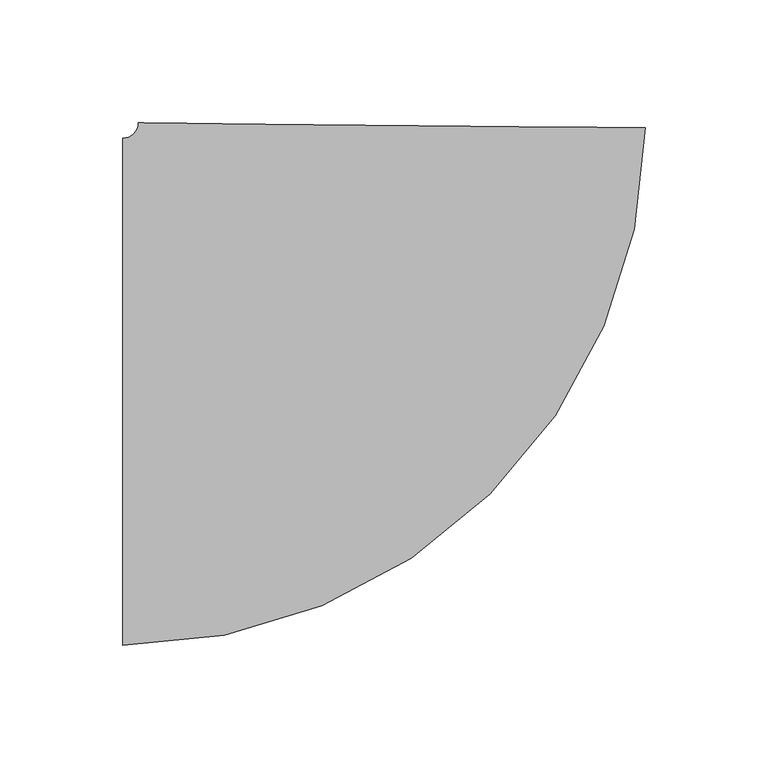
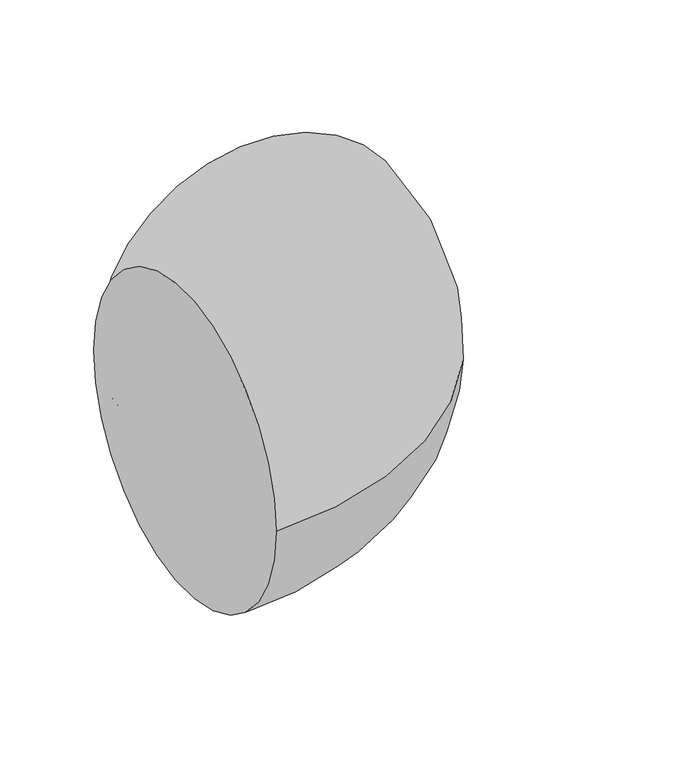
"""IFC4 building model written with IfcOpenShell, lengths in millimetres: pipe fitting geometry, M_Codo - Genérico : Estándar."""

import ifcopenshell
import ifcopenshell.guid

model = None  # the IFC model being written
_history = None  # IfcOwnerHistory: only IFC2X3 demands one
_inside = {}  # id of a spatial element -> (the spatial element, [elements in it])
_under = {}  # id of a project, library or spatial element -> (it, [spatial elements below it])
_declared = {}  # id of a project -> (the project, [libraries it declares])
_typed = {}  # id of a type object -> (the type object, [elements of that type])
_made_of = {}  # id of a material, layer set ... -> (it, [elements and type objects made of it])


def new_model(schema):
    """Start an empty IFC model of exactly this schema.

    Asked for "IFC4X3", IfcOpenShell would pick the latest addendum, in which some entities
    have other attributes; the version numbers below select the first issue.
    IFC2X3 requires an IfcOwnerHistory on every rooted entity: one is made here for all.
    """
    global model, _history
    if schema == "IFC4X3":
        model = ifcopenshell.file(schema_version=(4, 3, 0, 0))
    else:
        model = ifcopenshell.file(schema=schema)
    _inside.clear()
    _under.clear()
    _declared.clear()
    _typed.clear()
    _made_of.clear()
    _history = None
    if model.schema == "IFC2X3":
        org = make("IfcOrganization", Name="unknown")
        user = make(
            "IfcPersonAndOrganization",
            ThePerson=make("IfcPerson", FamilyName="unknown"),
            TheOrganization=org,
        )
        app = make(
            "IfcApplication",
            ApplicationDeveloper=org,
            Version="unknown",
            ApplicationFullName="unknown",
            ApplicationIdentifier="unknown",
        )
        _history = make(
            "IfcOwnerHistory",
            OwningUser=user,
            OwningApplication=app,
            ChangeAction="ADDED",
            CreationDate=0,
        )
    return model


def make(cls, **values):
    """One entity of the class cls with the attributes given. An attribute that is None is left unset."""
    return model.create_entity(
        cls, **{name: value for name, value in values.items() if value is not None}
    )


def rooted(cls, **values):
    """An entity with a GlobalId (a new one), such as an element, a storey or a relation."""
    return make(cls, GlobalId=ifcopenshell.guid.new(), OwnerHistory=_history, **values)


def si_unit(unit_type, name, prefix=None):
    """IfcSIUnit, for example si_unit("LENGTHUNIT", "METRE", prefix="MILLI")."""
    return make("IfcSIUnit", UnitType=unit_type, Prefix=prefix, Name=name)


def assignment(units):
    """IfcUnitAssignment: the units of a project."""
    return None if units is None else make("IfcUnitAssignment", Units=units)


def point(xyz):
    """IfcCartesianPoint."""
    return None if xyz is None else make("IfcCartesianPoint", Coordinates=xyz)


def direction(xyz):
    """IfcDirection."""
    return None if xyz is None else make("IfcDirection", DirectionRatios=xyz)


def frame(location, z_axis=None, x_axis=None):
    """IfcAxis2Placement3D, a coordinate frame: its origin and axes. An axis left out is left unset."""
    return make(
        "IfcAxis2Placement3D",
        Location=point(location),
        Axis=direction(z_axis),
        RefDirection=direction(x_axis),
    )


def origin():
    """The frame at (0, 0, 0) with its axes left unset."""
    return frame((0.0, 0.0, 0.0))


def place(relative_to, where):
    """IfcLocalPlacement: puts the frame where relative to a parent placement (None: the world)."""
    return make(
        "IfcLocalPlacement", PlacementRelTo=relative_to, RelativePlacement=where
    )


def context(
    kind, dimensions, precision=None, world=None, true_north=None, identifier=None
):
    """IfcGeometricRepresentationContext, for example the 3D "Model" context."""
    return make(
        "IfcGeometricRepresentationContext",
        ContextIdentifier=identifier,
        ContextType=kind,
        CoordinateSpaceDimension=dimensions,
        Precision=precision,
        WorldCoordinateSystem=world,
        TrueNorth=true_north,
    )


def project(units=None, contexts=None):
    """IfcProject with its units and contexts."""
    return rooted(
        "IfcProject",
        Name="project",
        RepresentationContexts=contexts,
        UnitsInContext=assignment(units),
    )


def spatial(cls, under=None, at=None, **own):
    """A site, building, storey or space (cls), placed at a placement, below another one or the project."""
    s = rooted(cls, ObjectPlacement=at, **own)
    if under is not None:
        _under.setdefault(under.id(), (under, []))[1].append(s)
    return s


def circle_curve(where, radius):
    """IfcCircle in the frame where."""
    return make("IfcCircle", Position=where, Radius=radius)


def ellipse_curve(where, semi_axis1, semi_axis2):
    """IfcEllipse in the frame where."""
    return make(
        "IfcEllipse", Position=where, SemiAxis1=semi_axis1, SemiAxis2=semi_axis2
    )


def trimmed(basis, trim1, trim2, sense, master):
    """IfcTrimmedCurve: the piece of a basis curve between two trims."""
    return make(
        "IfcTrimmedCurve",
        BasisCurve=basis,
        Trim1=trim1,
        Trim2=trim2,
        SenseAgreement=sense,
        MasterRepresentation=master,
    )


def shape(context_of_items, identifier, shape_type, items):
    """IfcShapeRepresentation: the items that make up one representation, for example the "Body"."""
    return make(
        "IfcShapeRepresentation",
        ContextOfItems=context_of_items,
        RepresentationIdentifier=identifier,
        RepresentationType=shape_type,
        Items=items,
    )


def source(mapping_origin, context_of_items, identifier, shape_type, items):
    """IfcRepresentationMap: a shape defined once, which mapped items show again and again."""
    return make(
        "IfcRepresentationMap",
        MappingOrigin=mapping_origin,
        MappedRepresentation=shape(context_of_items, identifier, shape_type, items),
    )


def transform(
    local_origin,
    x_axis=None,
    y_axis=None,
    z_axis=None,
    scale=None,
    scale2=None,
    scale3=None,
    uniform=True,
):
    """IfcCartesianTransformationOperator3D, or its non-uniform kind. x_axis, y_axis, z_axis: its Axis1, 2, 3."""
    if uniform:
        return make(
            "IfcCartesianTransformationOperator3D",
            Axis1=direction(x_axis),
            Axis2=direction(y_axis),
            LocalOrigin=point(local_origin),
            Scale=scale,
            Axis3=direction(z_axis),
        )
    return make(
        "IfcCartesianTransformationOperator3DnonUniform",
        Axis1=direction(x_axis),
        Axis2=direction(y_axis),
        LocalOrigin=point(local_origin),
        Scale=scale,
        Axis3=direction(z_axis),
        Scale2=scale2,
        Scale3=scale3,
    )


def mapped(mapping_source, mapping_target):
    """IfcMappedItem: shows the shape of a source again, moved by a transform."""
    return make(
        "IfcMappedItem", MappingSource=mapping_source, MappingTarget=mapping_target
    )


def made_of(thing, what):
    """Note that an element or type object is made of a material, layer set ...; save() writes the relation."""
    if what is not None:
        _made_of.setdefault(what.id(), (what, []))[1].append(thing)
    return thing


def element(
    cls,
    number,
    at=None,
    inside=None,
    cuts=None,
    type_object=None,
    material=None,
    context=None,
    identifier="Body",
    shape_type=None,
    held_by="IfcProductDefinitionShape",
    body=None,
    shapes=None,
    **own,
):
    """One element of the class cls, such as IfcWall. Its Tag is "e" and its number.

    at: its placement. inside: the storey or other place that contains it. cuts: it is an
    opening in that element (IfcRelVoidsElement). A single representation is given by context,
    identifier, shape_type and body (its items); several are given by shapes. held_by: the class
    of the entity that holds the representations. save() writes the other relations.
    """
    e = rooted(cls, Tag="e%d" % number, ObjectPlacement=at, **own)
    if body is not None:
        shapes = [shape(context, identifier, shape_type, body)]
    if shapes is not None:
        e.Representation = make(held_by, Representations=shapes)
    if inside is not None:
        _inside.setdefault(inside.id(), (inside, []))[1].append(e)
    if cuts is not None:
        rooted(
            "IfcRelVoidsElement", RelatingBuildingElement=cuts, RelatedOpeningElement=e
        )
    if type_object is not None:
        _typed.setdefault(type_object.id(), (type_object, []))[1].append(e)
    return made_of(e, material)


def aggregate(whole, parts):
    """IfcRelAggregates: a whole, such as a stair, and the parts it consists of."""
    return rooted("IfcRelAggregates", RelatingObject=whole, RelatedObjects=parts)


def save(model, path):
    """Write the relations noted so far, then the file.

    IfcRelAggregates (storeys below a building ...), IfcRelContainedInSpatialStructure (elements
    in a storey), IfcRelDefinesByType, IfcRelAssociatesMaterial and IfcRelDeclares: one each for
    every whole, place, type object, material and project.
    """
    for whole, parts in _under.values():
        aggregate(whole, parts)
    for where, things in _inside.values():
        rooted(
            "IfcRelContainedInSpatialStructure",
            RelatedElements=things,
            RelatingStructure=where,
        )
    for kind, things in _typed.values():
        rooted("IfcRelDefinesByType", RelatedObjects=things, RelatingType=kind)
    for what, things in _made_of.values():
        rooted("IfcRelAssociatesMaterial", RelatedObjects=things, RelatingMaterial=what)
    for by, libraries in _declared.values():
        rooted("IfcRelDeclares", RelatingContext=by, RelatedDefinitions=libraries)
    model.write(path)


def plane_surface(at):
    """IfcPlane: the flat surface through the origin of the frame at, square to its z axis."""
    return make("IfcPlane", Position=at)


def revolved_surface(curve, axis_point, axis_direction):
    """IfcSurfaceOfRevolution: the curve turned about the line through axis_point along axis_direction."""
    return make(
        "IfcSurfaceOfRevolution",
        SweptCurve=make("IfcArbitraryOpenProfileDef", ProfileType="CURVE", Curve=curve),
        AxisPosition=make("IfcAxis1Placement", Location=point(axis_point), Axis=direction(axis_direction)),
    )


def advanced_brep(points, edges, surfaces, faces):
    """IfcAdvancedBrep: a solid bounded by faces that lie on surfaces and meet in shared edges.

    An edge is (start, end): straight between two places in points (the first is 0);
    or (start, end, curve); or (start, end, curve, False) where it runs against its curve.
    A face is (place in surfaces, loops), or (place, loops, False) where it looks against
    its surface's normal. A loop lists edges by number (the first is 1), with a minus sign
    where the edge is run from its end to its start. The first loop is the outer one.
    """
    corners = [point(p) for p in points]
    vertices = [make("IfcVertexPoint", VertexGeometry=c) for c in corners]
    made = []
    for start, end, *more in edges:
        made.append(
            make(
                "IfcEdgeCurve",
                EdgeStart=vertices[start],
                EdgeEnd=vertices[end],
                EdgeGeometry=more[0] if more else make("IfcPolyline", Points=[corners[start], corners[end]]),
                SameSense=more[1] if len(more) > 1 else True,
            )
        )
    hull = []
    for where, loops, *sense in faces:
        bounds = []
        for j, loop in enumerate(loops):
            ring = [make("IfcOrientedEdge", EdgeElement=made[abs(k) - 1], Orientation=k > 0) for k in loop]
            bounds.append(
                make(
                    "IfcFaceOuterBound" if j == 0 else "IfcFaceBound",
                    Bound=make("IfcEdgeLoop", EdgeList=ring),
                    Orientation=True,
                )
            )
        hull.append(make("IfcAdvancedFace", Bounds=bounds, FaceSurface=surfaces[where], SameSense=sense[0] if sense else True))
    return make("IfcAdvancedBrep", Outer=make("IfcClosedShell", CfsFaces=hull))


def pipe_fitting_eb148d84(model_context):
    return source(origin(), model_context, "Body", "AdvancedBrep", [
        advanced_brep(
        [(-108.4476017, -103.1875, 0.0), (-108.4476017, 103.1875, 0.0), (104.2667628, 107.4103564, 0.0), (-102.0979192, 109.4740032, 0.0)],
        [
            (0, 1, circle_curve(frame((-108.4476017, 0.0, 0.0), z_axis=(-1.0, 0.0, 0.0), x_axis=(0.0, 1.0, 0.0)), 103.1875)),
            (1, 0, circle_curve(frame((-108.4476017, 0.0, 0.0), z_axis=(-1.0, 0.0, 0.0), x_axis=(0.0, 1.0, 0.0)), 103.1875)),
            (2, 3, circle_curve(frame((1.0844218, 108.4421798, 0.0), z_axis=(0.00999950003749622, 0.9999500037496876, 0.0), x_axis=(-0.9999500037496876, 0.00999950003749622, 0.0)), 103.1875)),
            (3, 2, circle_curve(frame((1.0844218, 108.4421798, 0.0), z_axis=(0.00999950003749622, 0.9999500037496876, 0.0), x_axis=(-0.9999500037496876, 0.00999950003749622, 0.0)), 103.1875)),
            (3, 1, circle_curve(frame((-108.4476017, 109.5375, 0.0), z_axis=(0.0, 0.0, -1.0), x_axis=(0.0, -1.0, 0.0)), 6.35)),
            (0, 2, circle_curve(frame((-108.4476017, 109.5375, 0.0), z_axis=(0.0, 0.0, 1.0), x_axis=(0.0, -1.0, 0.0)), 212.725)),
        ],
        [
            plane_surface(frame((-108.4476017, 0.0, 0.0), z_axis=(-1.0, 0.0, 0.0), x_axis=(0.0, 0.0, 1.0))),
            plane_surface(frame((1.0844218, 108.4421798, 0.0), z_axis=(0.009999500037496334, 0.9999500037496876, 0.0), x_axis=(0.0, 0.0, 1.0))),
            revolved_surface(trimmed(ellipse_curve(frame((-108.4476017, 0.0, 0.0), z_axis=(-1.0, 0.0, 0.0), x_axis=(0.0, 1.0, 0.0)), 103.1875, 103.1875), [point((-108.4476017, -103.1875, 0.0))], [point((-108.4476017, 103.1875, 0.0))], True, "CARTESIAN"), (-108.4476017, 109.5375, 0.0), (0.0, 0.0, 1.0)),
            revolved_surface(trimmed(ellipse_curve(frame((-108.4476017, 0.0, 0.0), z_axis=(-1.0, 0.0, 0.0), x_axis=(0.0, 1.0, 0.0)), 103.1875, 103.1875), [point((-108.4476017, 103.1875, 0.0))], [point((-108.4476017, -103.1875, 0.0))], True, "CARTESIAN"), (-108.4476017, 109.5375, 0.0), (0.0, 0.0, 1.0)),
        ],
        [
            (0, [[1, 2]]),
            (1, [[3, 4]]),
            (2, [[5, -1, 6, -4]]),
            (3, [[-6, -2, -5, -3]]),
        ],
    ),
    ])


if __name__ == "__main__":
    model = new_model("IFC4")
    model_context = context("Model", 3, world=origin())
    ifc_project = project(units=[si_unit("LENGTHUNIT", "METRE", prefix="MILLI")], contexts=[model_context])
    site = spatial("IfcSite", under=ifc_project)
    building = spatial("IfcBuilding", under=site)
    placement = place(None, origin())
    pipe_fitting_shape = pipe_fitting_eb148d84(model_context)
    element("IfcPipeFitting", 1, ObjectType="M_Codo - Genérico : Estándar", at=placement, inside=building, context=model_context, shape_type="MappedRepresentation", body=[
        mapped(pipe_fitting_shape, transform((0.0, 0.0, 0.0), x_axis=(1.0, 0.0, 0.0), y_axis=(0.0, 1.0, 0.0), z_axis=(0.0, 0.0, 1.0))),
    ])
    save(model, "model.ifc")
